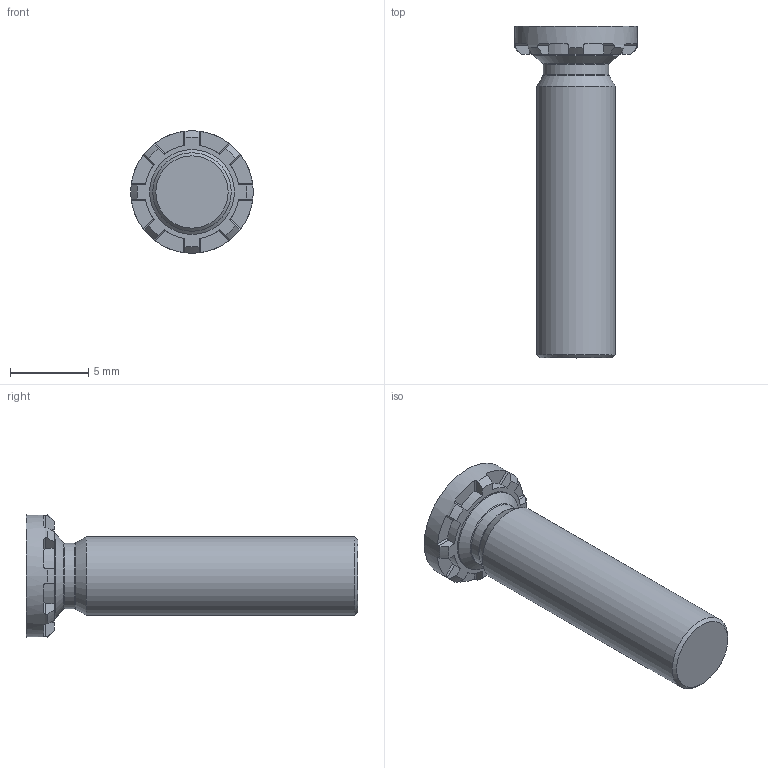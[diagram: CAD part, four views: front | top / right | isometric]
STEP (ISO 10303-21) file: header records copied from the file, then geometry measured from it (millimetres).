
FILE_DESCRIPTION(/* description */ (''),/* implementation_level */ '2;1');
FILE_NAME(/* name */ 'C:\Users\keval.kumar\Desktop\Fastit\Clinch Screw- HFH Range\M5\Clinch Screw-HFH Range_M5x20.stp',/* time_stamp */ '2024-03-12T14:31:25+05:00',/* author */ ('keval.kumar'),/* organization */ (''),/* preprocessor_version */ 'ST-DEVELOPER v18.1',/* originating_system */ 'Autodesk Inventor 2022',/* authorisation */ '');
FILE_SCHEMA (('AUTOMOTIVE_DESIGN { 1 0 10303 214 3 1 1 }'));
Length unit declared in the file: millimetre
Products named in the file (1): Clinch Screw-HFH Range_M5x20
Bounding box: 7.8 x 21.14 x 7.8 mm (x, y, z)
Volume: 449.4 mm3; surface area: 442.9 mm2
Topology: 1 solids, 1 shells, 68 faces, 193 edges, 128 vertices
Faces by surface type: plane 43, cylinder 12, cone 11, torus 2
Full cylindrical faces by diameter (mm): 4.2 x1, 5 x1, 5.4 x1, 7.8 x1
Entity records: 2278 total; most frequent: CARTESIAN_POINT 422, DIRECTION 405, ORIENTED_EDGE 386, EDGE_CURVE 193, AXIS2_PLACEMENT_3D 159, VERTEX_POINT 128, LINE 87, VECTOR 87
